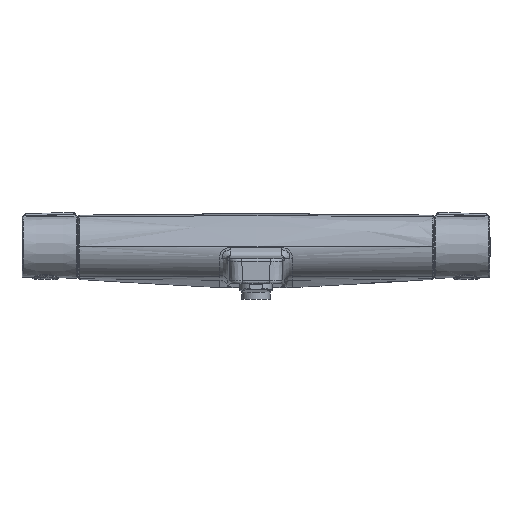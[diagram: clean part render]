
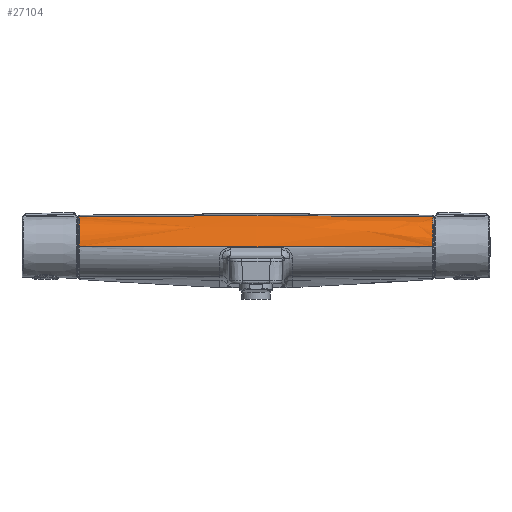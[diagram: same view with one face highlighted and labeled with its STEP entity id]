
A CAD part, top view. The second image highlights one B-rep face of the part: STEP entity #27104.
In plain terms, the highlighted free-form (B-spline) face has degree [2, 3] with [7, 4] control points.
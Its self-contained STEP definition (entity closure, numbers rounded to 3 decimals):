
#313 = CARTESIAN_POINT ( 'NONE',  ( -43.149, 23.074, 6.186 ) ) ;
#499 = CARTESIAN_POINT ( 'NONE',  ( 129.441, 0.257, 22.348 ) ) ;
#1262 = CARTESIAN_POINT ( 'NONE',  ( 0., 20.855, 17.461 ) ) ;
#2529 = CARTESIAN_POINT ( 'NONE',  ( -129.441, 22.122, 5.91 ) ) ;
#3165 = CARTESIAN_POINT ( 'NONE',  ( -130.2, 0.257, 22.332 ) ) ;
#3306 = CARTESIAN_POINT ( 'NONE',  ( -129.441, 22.122, 5.91 ) ) ;
#3690 = CARTESIAN_POINT ( 'NONE',  ( -130.994, 22.098, 5.903 ) ) ;
#4001 = CARTESIAN_POINT ( 'NONE',  ( 129.441, 21.442, 8.257 ) ) ;
#4157 = CARTESIAN_POINT ( 'NONE',  ( 129.441, 0.257, 22.348 ) ) ;
#4228 = CARTESIAN_POINT ( 'NONE',  ( 130.994, 19.175, 16.003 ) ) ;
#4791 = CARTESIAN_POINT ( 'NONE',  ( 0., 0.257, 24.339 ) ) ;
#4807 = EDGE_LOOP ( 'NONE', ( #35239, #12037, #13910, #7164 ) ) ;
#6353 = EDGE_CURVE ( 'NONE', #38977, #6580, #40997, .T. ) ;
#6580 = VERTEX_POINT ( 'NONE', #8582 ) ;
#7164 = ORIENTED_EDGE ( 'NONE', *, *, #8311, .F. ) ;
#7416 = B_SPLINE_CURVE_WITH_KNOTS ( 'NONE', 3,
 ( #32502, #9955, #313, #32644, #32365, #16365 ),
 .UNSPECIFIED., .F., .F.,
 ( 4, 2, 4 ),
 ( 0., 0.5, 1. ),
 .UNSPECIFIED. ) ;
#7500 = CARTESIAN_POINT ( 'NONE',  ( 0., 11.704, 24.339 ) ) ;
#8311 = EDGE_CURVE ( 'NONE', #12906, #24527, #7416, .T. ) ;
#8582 = CARTESIAN_POINT ( 'NONE',  ( 129.441, 0.257, 22.348 ) ) ;
#9955 = CARTESIAN_POINT ( 'NONE',  ( -86.298, 22.755, 6.093 ) ) ;
#10759 = CARTESIAN_POINT ( 'NONE',  ( 130.597, 0.257, 22.326 ) ) ;
#11598 = CARTESIAN_POINT ( 'NONE',  ( -130.994, 0.257, 22.32 ) ) ;
#12037 = ORIENTED_EDGE ( 'NONE', *, *, #6353, .T. ) ;
#12484 = CARTESIAN_POINT ( 'NONE',  ( -130.2, 22.11, 5.907 ) ) ;
#12906 = VERTEX_POINT ( 'NONE', #2529 ) ;
#12987 = CARTESIAN_POINT ( 'NONE',  ( 0., 24.037, 6.465 ) ) ;
#13410 = CARTESIAN_POINT ( 'NONE',  ( -129.441, 0.257, 22.353 ) ) ;
#13575 = CARTESIAN_POINT ( 'NONE',  ( -129.441, 0.257, 22.348 ) ) ;
#13910 = ORIENTED_EDGE ( 'NONE', *, *, #33238, .F. ) ;
#14052 = CARTESIAN_POINT ( 'NONE',  ( 130.994, 22.098, 5.903 ) ) ;
#14286 =( BOUNDED_CURVE ( )  B_SPLINE_CURVE ( 3, ( #16669, #13410, #39328, #19642, #19914, #3306 ),
 .UNSPECIFIED., .F., .T. ) 
 B_SPLINE_CURVE_WITH_KNOTS ( ( 4, 1, 1, 4 ),
 ( 0.494, 0.494, 0.769, 1. ),
 .UNSPECIFIED. ) 
 CURVE ( )  GEOMETRIC_REPRESENTATION_ITEM ( )  RATIONAL_B_SPLINE_CURVE ( ( 1., 1., 1., 1., 1., 1. ) ) 
 REPRESENTATION_ITEM ( '' )  );
#16194 = CARTESIAN_POINT ( 'NONE',  ( -130.597, 19.181, 16.007 ) ) ;
#16199 = CARTESIAN_POINT ( 'NONE',  ( -130.994, 10.771, 22.32 ) ) ;
#16365 = CARTESIAN_POINT ( 'NONE',  ( 129.441, 22.122, 5.91 ) ) ;
#16669 = CARTESIAN_POINT ( 'NONE',  ( -129.441, 0.257, 22.348 ) ) ;
#16721 = CARTESIAN_POINT ( 'NONE',  ( -130.2, 19.186, 16.012 ) ) ;
#16966 = CARTESIAN_POINT ( 'NONE',  ( 129.441, 22.122, 5.91 ) ) ;
#16978 = CARTESIAN_POINT ( 'NONE',  ( 0., 0.257, 24.327 ) ) ;
#17169 = CARTESIAN_POINT ( 'NONE',  ( 130.2, 22.11, 5.907 ) ) ;
#17460 = CARTESIAN_POINT ( 'NONE',  ( 130.994, 0.257, 22.32 ) ) ;
#17599 = CARTESIAN_POINT ( 'NONE',  ( 130.597, 19.181, 16.007 ) ) ;
#19642 = CARTESIAN_POINT ( 'NONE',  ( -129.441, 15.327, 18.783 ) ) ;
#19914 = CARTESIAN_POINT ( 'NONE',  ( -129.441, 20.879, 10.2 ) ) ;
#20405 = CARTESIAN_POINT ( 'NONE',  ( 130.994, 10.771, 22.32 ) ) ;
#20701 = CARTESIAN_POINT ( 'NONE',  ( 130.2, 19.186, 16.012 ) ) ;
#20803 = B_SPLINE_CURVE_WITH_KNOTS ( 'NONE', 3,
 ( #33512, #4001, #33652, #29833, #29973, #30259, #36620, #4157 ),
 .UNSPECIFIED., .F., .F.,
 ( 4, 2, 2, 4 ),
 ( 0., 0.126, 0.253, 0.506 ),
 .UNSPECIFIED. ) ;
#24235 = CARTESIAN_POINT ( 'NONE',  ( 130.597, 10.774, 22.326 ) ) ;
#24527 = VERTEX_POINT ( 'NONE', #16966 ) ;
#25647 = EDGE_CURVE ( 'NONE', #38977, #12906, #14286, .T. ) ;
#27077 = CARTESIAN_POINT ( 'NONE',  ( 130.2, 0.257, 22.332 ) ) ;
#27104 = ADVANCED_FACE ( 'NONE', ( #36090 ), #30877, .F. ) ;
#29833 = CARTESIAN_POINT ( 'NONE',  ( 129.441, 17.601, 14.526 ) ) ;
#29973 = CARTESIAN_POINT ( 'NONE',  ( 129.441, 15.893, 16.318 ) ) ;
#30188 = CARTESIAN_POINT ( 'NONE',  ( 130.597, 22.104, 5.905 ) ) ;
#30259 = CARTESIAN_POINT ( 'NONE',  ( 129.441, 10.024, 20.71 ) ) ;
#30473 = CARTESIAN_POINT ( 'NONE',  ( 130.2, 10.777, 22.332 ) ) ;
#30877 =( BOUNDED_SURFACE ( )  B_SPLINE_SURFACE ( 2, 3, ( 
 ( #3690, #35879, #16199, #11598 ),
 ( #32391, #16194, #39281, #38003 ),
 ( #12484, #16721, #38088, #3165 ),
 ( #12987, #1262, #7500, #4791 ),
 ( #17169, #20701, #30473, #27077 ),
 ( #30188, #17599, #24235, #10759 ),
 ( #14052, #4228, #20405, #17460 ) ),
 .UNSPECIFIED., .F., .F., .T. ) 
 B_SPLINE_SURFACE_WITH_KNOTS ( ( 3, 2, 2, 3 ),
 ( 4, 4 ),
 ( 0.018, 0.021, 0.979, 0.982 ),
 ( 0., 1. ),
 .UNSPECIFIED. ) 
 GEOMETRIC_REPRESENTATION_ITEM ( )  RATIONAL_B_SPLINE_SURFACE ( (
 ( 1., 0.866, 0.866, 1.),
 ( 1., 0.866, 0.866, 1.),
 ( 1., 0.866, 0.866, 1.),
 ( 1., 0.866, 0.866, 1.),
 ( 1., 0.866, 0.866, 1.),
 ( 1., 0.866, 0.866, 1.),
 ( 1., 0.866, 0.866, 1.) ) ) 
 REPRESENTATION_ITEM ( '' )  SURFACE ( )  );
#32365 = CARTESIAN_POINT ( 'NONE',  ( 86.297, 22.755, 6.093 ) ) ;
#32391 = CARTESIAN_POINT ( 'NONE',  ( -130.597, 22.104, 5.905 ) ) ;
#32502 = CARTESIAN_POINT ( 'NONE',  ( -129.441, 22.122, 5.91 ) ) ;
#32644 = CARTESIAN_POINT ( 'NONE',  ( 43.149, 23.074, 6.186 ) ) ;
#33238 = EDGE_CURVE ( 'NONE', #24527, #6580, #20803, .T. ) ;
#33512 = CARTESIAN_POINT ( 'NONE',  ( 129.441, 22.122, 5.91 ) ) ;
#33652 = CARTESIAN_POINT ( 'NONE',  ( 129.441, 20.375, 10.494 ) ) ;
#35239 = ORIENTED_EDGE ( 'NONE', *, *, #25647, .F. ) ;
#35879 = CARTESIAN_POINT ( 'NONE',  ( -130.994, 19.175, 16.003 ) ) ;
#36090 = FACE_OUTER_BOUND ( 'NONE', #4807, .T. ) ;
#36620 = CARTESIAN_POINT ( 'NONE',  ( 129.441, 5.141, 22.353 ) ) ;
#37555 = CARTESIAN_POINT ( 'NONE',  ( -129.441, 0.257, 22.348 ) ) ;
#38003 = CARTESIAN_POINT ( 'NONE',  ( -130.597, 0.257, 22.326 ) ) ;
#38088 = CARTESIAN_POINT ( 'NONE',  ( -130.2, 10.777, 22.332 ) ) ;
#38977 = VERTEX_POINT ( 'NONE', #37555 ) ;
#39281 = CARTESIAN_POINT ( 'NONE',  ( -130.597, 10.774, 22.326 ) ) ;
#39328 = CARTESIAN_POINT ( 'NONE',  ( -129.441, 5.562, 22.353 ) ) ;
#40997 =( BOUNDED_CURVE ( )  B_SPLINE_CURVE ( 2, ( #13575, #16978, #499 ),
 .UNSPECIFIED., .F., .T. ) 
 B_SPLINE_CURVE_WITH_KNOTS ( ( 3, 3 ),
 ( 0.024, 0.976 ),
 .UNSPECIFIED. ) 
 CURVE ( )  GEOMETRIC_REPRESENTATION_ITEM ( )  RATIONAL_B_SPLINE_CURVE ( ( 1., 1., 1. ) ) 
 REPRESENTATION_ITEM ( '' )  );
